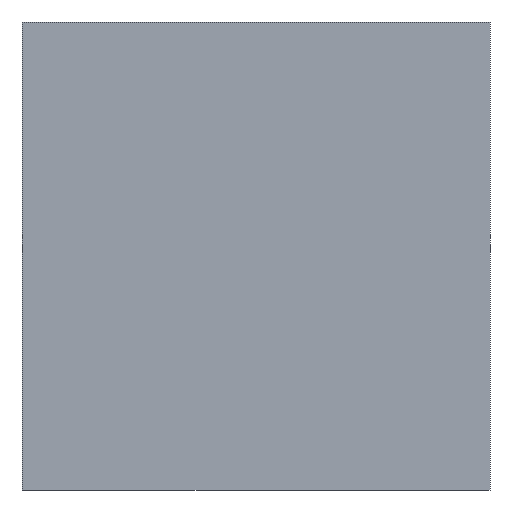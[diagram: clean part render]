
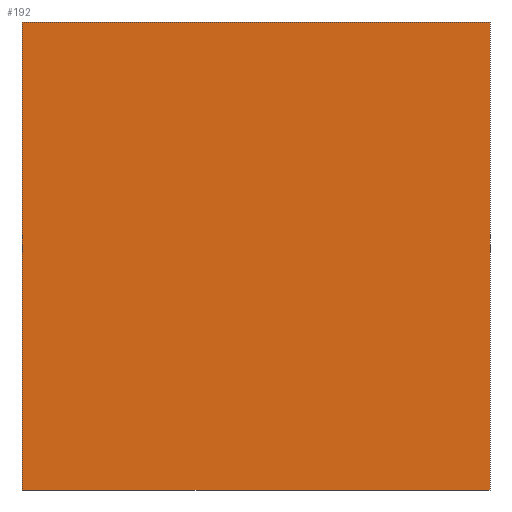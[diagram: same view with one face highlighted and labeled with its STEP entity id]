
A CAD part, front view. The second image highlights one B-rep face of the part: STEP entity #192.
In plain terms, the highlighted planar face has unit normal (0, -1, 0).
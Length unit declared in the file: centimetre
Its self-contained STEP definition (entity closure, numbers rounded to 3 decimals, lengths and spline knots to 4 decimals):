
#10 = EDGE_LOOP ( 'NONE', ( #116, #326, #54, #409 ) ) ;
#21 = VERTEX_POINT ( 'NONE', #250 ) ;
#40 = CARTESIAN_POINT ( 'NONE',  ( 0., 0., 1000. ) ) ;
#54 = ORIENTED_EDGE ( 'NONE', *, *, #183, .F. ) ;
#87 = FACE_OUTER_BOUND ( 'NONE', #10, .T. ) ;
#98 = VECTOR ( 'NONE', #277, 100. ) ;
#116 = ORIENTED_EDGE ( 'NONE', *, *, #288, .T. ) ;
#120 = VERTEX_POINT ( 'NONE', #612 ) ;
#130 = CARTESIAN_POINT ( 'NONE',  ( 0., 0., 0. ) ) ;
#183 = EDGE_CURVE ( 'NONE', #348, #120, #228, .T. ) ;
#192 = ADVANCED_FACE ( 'NONE', ( #87 ), #535, .F. ) ;
#200 = VERTEX_POINT ( 'NONE', #280 ) ;
#206 = LINE ( 'NONE', #313, #585 ) ;
#228 = LINE ( 'NONE', #625, #267 ) ;
#238 = DIRECTION ( 'NONE',  ( 0., 0., -1. ) ) ;
#250 = CARTESIAN_POINT ( 'NONE',  ( 0., 0., 0. ) ) ;
#267 = VECTOR ( 'NONE', #275, 100. ) ;
#275 = DIRECTION ( 'NONE',  ( 1., 0., 0. ) ) ;
#277 = DIRECTION ( 'NONE',  ( 1., 0., 0. ) ) ;
#280 = CARTESIAN_POINT ( 'NONE',  ( 1000., 0., 0. ) ) ;
#288 = EDGE_CURVE ( 'NONE', #21, #200, #571, .T. ) ;
#304 = CARTESIAN_POINT ( 'NONE',  ( 0., 0., 1000. ) ) ;
#313 = CARTESIAN_POINT ( 'NONE',  ( 1000., 0., 1000. ) ) ;
#324 = AXIS2_PLACEMENT_3D ( 'NONE', #40, #435, #437 ) ;
#326 = ORIENTED_EDGE ( 'NONE', *, *, #512, .F. ) ;
#346 = EDGE_CURVE ( 'NONE', #348, #21, #403, .T. ) ;
#348 = VERTEX_POINT ( 'NONE', #304 ) ;
#403 = LINE ( 'NONE', #488, #510 ) ;
#409 = ORIENTED_EDGE ( 'NONE', *, *, #346, .T. ) ;
#435 = DIRECTION ( 'NONE',  ( 0., 1., 0. ) ) ;
#437 = DIRECTION ( 'NONE',  ( 0., 0., 1. ) ) ;
#467 = DIRECTION ( 'NONE',  ( 0., 0., -1. ) ) ;
#488 = CARTESIAN_POINT ( 'NONE',  ( 0., 0., 1000. ) ) ;
#510 = VECTOR ( 'NONE', #238, 100. ) ;
#512 = EDGE_CURVE ( 'NONE', #120, #200, #206, .T. ) ;
#535 = PLANE ( 'NONE',  #324 ) ;
#571 = LINE ( 'NONE', #130, #98 ) ;
#585 = VECTOR ( 'NONE', #467, 100. ) ;
#612 = CARTESIAN_POINT ( 'NONE',  ( 1000., 0., 1000. ) ) ;
#625 = CARTESIAN_POINT ( 'NONE',  ( 0., 0., 1000. ) ) ;
